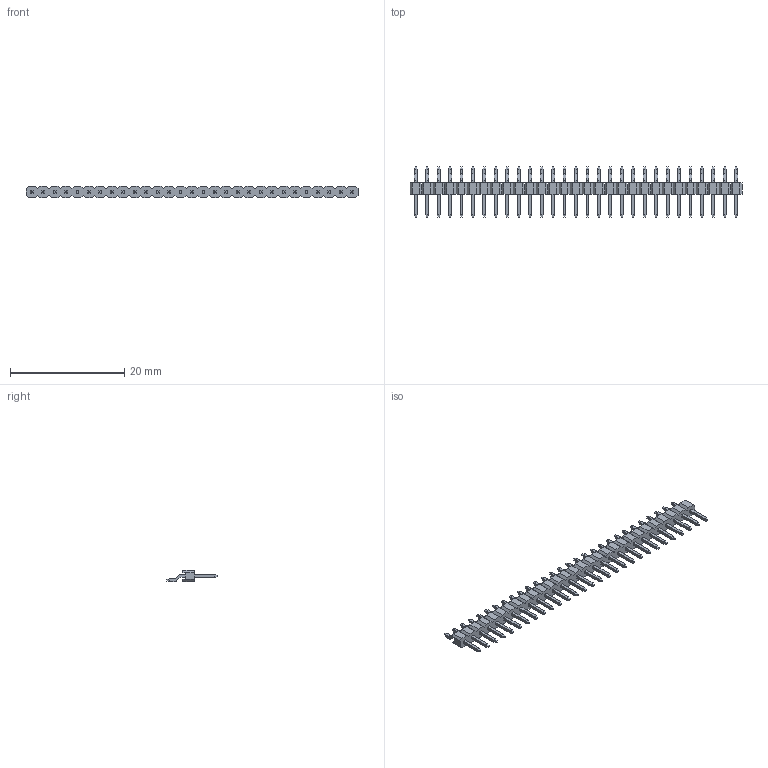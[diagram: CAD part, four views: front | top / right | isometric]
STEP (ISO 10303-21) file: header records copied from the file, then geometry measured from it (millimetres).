
FILE_DESCRIPTION(('STEP AP214'),'1');
FILE_NAME('pin_header_a-sl200-ea-g29mr1.stp','2018-06-30T21:23:05',('TraceParts'),('TraceParts S.A.'),'Spatial InterOp 3D',' ',' ');
FILE_SCHEMA(('automotive_design'));
Length unit declared in the file: millimetre
Products named in the file (1): pin_header_a-sl200-ea-g29mr1
Bounding box: 58 x 8.8 x 2 mm (x, y, z)
Volume: 229.8 mm3; surface area: 959.8 mm2
Topology: 1 solids, 1 shells, 1104 faces, 2784 edges, 1740 vertices
Faces by surface type: plane 988, cylinder 116
Entity records: 41004 total; most frequent: CARTESIAN_POINT 5629, ORIENTED_EDGE 5568, DIRECTION 5226, EDGE_CURVE 2784, LINE 2552, VECTOR 2552, VERTEX_POINT 1740, AXIS2_PLACEMENT_3D 1337
